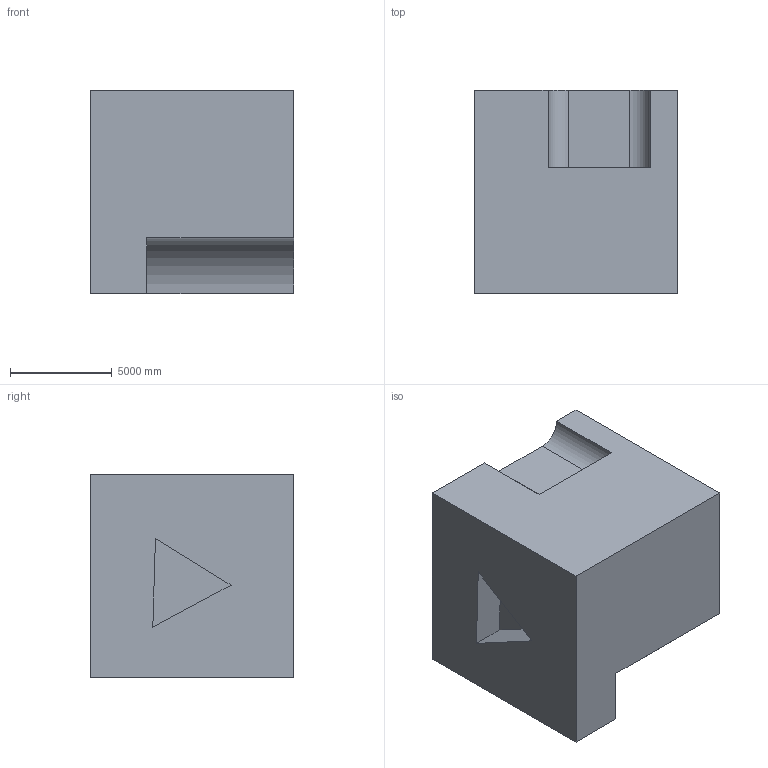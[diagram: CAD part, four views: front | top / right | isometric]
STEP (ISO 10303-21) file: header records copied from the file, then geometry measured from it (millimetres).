
FILE_DESCRIPTION (( 'STEP AP203' ), '1' );
FILE_NAME ('1342.STEP', '2022-08-18T13:56:58', ( 'user' ), ( '' ), 'SwSTEP 2.0', 'SolidWorks 2021', '' );
FILE_SCHEMA (( 'CONFIG_CONTROL_DESIGN' ));
Length unit declared in the file: centimetre
Products named in the file (1): 1342
Bounding box: 10000 x 10000 x 10000 mm (x, y, z)
Volume: 917025087334.2 mm3; surface area: 635244634.6 mm2
Topology: 1 solids, 1 shells, 22 faces, 51 edges, 34 vertices
Faces by surface type: plane 15, cylinder 7
Entity records: 706 total; most frequent: DIRECTION 111, CARTESIAN_POINT 108, ORIENTED_EDGE 102, EDGE_CURVE 51, LINE 37, VECTOR 37, AXIS2_PLACEMENT_3D 37, VERTEX_POINT 34
